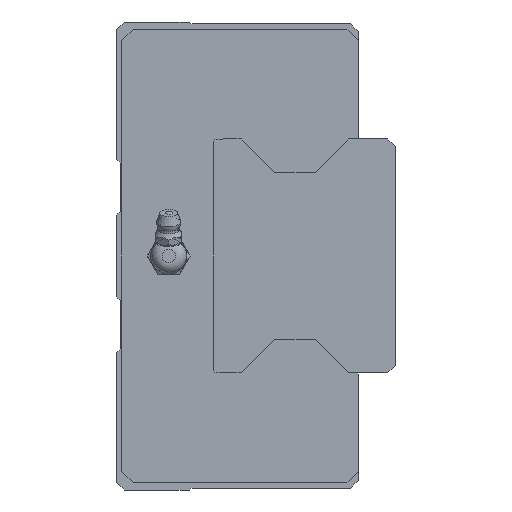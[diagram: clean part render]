
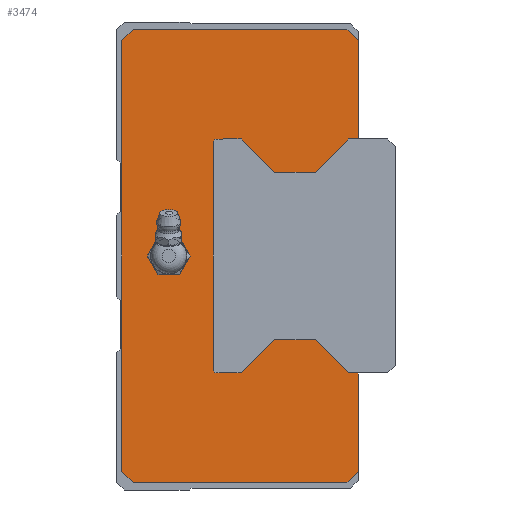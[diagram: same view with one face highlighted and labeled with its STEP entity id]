
A CAD part, left-side view. The second image highlights one B-rep face of the part: STEP entity #3474.
In plain terms, the highlighted planar face has unit normal (-1, 0, 0).
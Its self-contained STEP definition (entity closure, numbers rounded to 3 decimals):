
#238=CIRCLE('',#3808,4.864);
#239=CIRCLE('',#3809,1.);
#240=CIRCLE('',#3810,1.);
#686=ORIENTED_EDGE('',*,*,#1410,.T.);
#687=ORIENTED_EDGE('',*,*,#1411,.T.);
#688=ORIENTED_EDGE('',*,*,#1403,.F.);
#689=ORIENTED_EDGE('',*,*,#1331,.F.);
#690=ORIENTED_EDGE('',*,*,#1327,.F.);
#691=ORIENTED_EDGE('',*,*,#1319,.F.);
#692=ORIENTED_EDGE('',*,*,#1395,.F.);
#693=ORIENTED_EDGE('',*,*,#1304,.F.);
#694=ORIENTED_EDGE('',*,*,#1342,.F.);
#695=ORIENTED_EDGE('',*,*,#1339,.F.);
#696=ORIENTED_EDGE('',*,*,#1405,.F.);
#697=ORIENTED_EDGE('',*,*,#1412,.T.);
#698=ORIENTED_EDGE('',*,*,#1413,.T.);
#699=ORIENTED_EDGE('',*,*,#1414,.T.);
#700=ORIENTED_EDGE('',*,*,#1415,.T.);
#701=ORIENTED_EDGE('',*,*,#1416,.T.);
#702=ORIENTED_EDGE('',*,*,#1417,.T.);
#703=ORIENTED_EDGE('',*,*,#1418,.T.);
#704=ORIENTED_EDGE('',*,*,#1419,.T.);
#705=ORIENTED_EDGE('',*,*,#1420,.T.);
#706=ORIENTED_EDGE('',*,*,#1421,.T.);
#707=ORIENTED_EDGE('',*,*,#1422,.T.);
#708=ORIENTED_EDGE('',*,*,#1423,.T.);
#709=ORIENTED_EDGE('',*,*,#1424,.T.);
#710=ORIENTED_EDGE('',*,*,#1425,.T.);
#711=ORIENTED_EDGE('',*,*,#1426,.T.);
#712=ORIENTED_EDGE('',*,*,#1427,.T.);
#1304=EDGE_CURVE('',#1724,#1725,#2016,.T.);
#1319=EDGE_CURVE('',#1739,#1740,#2031,.T.);
#1327=EDGE_CURVE('',#1740,#1746,#2038,.T.);
#1331=EDGE_CURVE('',#1746,#1748,#2042,.T.);
#1339=EDGE_CURVE('',#1755,#1756,#2050,.T.);
#1342=EDGE_CURVE('',#1756,#1724,#2053,.T.);
#1395=EDGE_CURVE('',#1725,#1739,#2103,.T.);
#1403=EDGE_CURVE('',#1748,#1795,#2111,.T.);
#1405=EDGE_CURVE('',#1798,#1755,#2113,.T.);
#1410=EDGE_CURVE('',#1802,#1802,#238,.T.);
#1411=EDGE_CURVE('',#1803,#1795,#2118,.T.);
#1412=EDGE_CURVE('',#1798,#1804,#2119,.T.);
#1413=EDGE_CURVE('',#1804,#1805,#2120,.T.);
#1414=EDGE_CURVE('',#1805,#1806,#2121,.T.);
#1415=EDGE_CURVE('',#1806,#1807,#2122,.T.);
#1416=EDGE_CURVE('',#1807,#1808,#2123,.T.);
#1417=EDGE_CURVE('',#1808,#1809,#2124,.T.);
#1418=EDGE_CURVE('',#1809,#1810,#2125,.T.);
#1419=EDGE_CURVE('',#1810,#1811,#239,.T.);
#1420=EDGE_CURVE('',#1811,#1812,#2126,.T.);
#1421=EDGE_CURVE('',#1812,#1813,#240,.T.);
#1422=EDGE_CURVE('',#1813,#1814,#2127,.T.);
#1423=EDGE_CURVE('',#1814,#1815,#2128,.T.);
#1424=EDGE_CURVE('',#1815,#1816,#2129,.T.);
#1425=EDGE_CURVE('',#1816,#1817,#2130,.T.);
#1426=EDGE_CURVE('',#1817,#1818,#2131,.T.);
#1427=EDGE_CURVE('',#1818,#1803,#2132,.T.);
#1724=VERTEX_POINT('',#5298);
#1725=VERTEX_POINT('',#5300);
#1739=VERTEX_POINT('',#5329);
#1740=VERTEX_POINT('',#5331);
#1746=VERTEX_POINT('',#5347);
#1748=VERTEX_POINT('',#5354);
#1755=VERTEX_POINT('',#5369);
#1756=VERTEX_POINT('',#5371);
#1795=VERTEX_POINT('',#5484);
#1798=VERTEX_POINT('',#5494);
#1802=VERTEX_POINT('',#5505);
#1803=VERTEX_POINT('',#5507);
#1804=VERTEX_POINT('',#5509);
#1805=VERTEX_POINT('',#5511);
#1806=VERTEX_POINT('',#5513);
#1807=VERTEX_POINT('',#5515);
#1808=VERTEX_POINT('',#5517);
#1809=VERTEX_POINT('',#5519);
#1810=VERTEX_POINT('',#5521);
#1811=VERTEX_POINT('',#5523);
#1812=VERTEX_POINT('',#5525);
#1813=VERTEX_POINT('',#5527);
#1814=VERTEX_POINT('',#5529);
#1815=VERTEX_POINT('',#5531);
#1816=VERTEX_POINT('',#5533);
#1817=VERTEX_POINT('',#5535);
#1818=VERTEX_POINT('',#5537);
#2016=LINE('',#5299,#2296);
#2031=LINE('',#5330,#2311);
#2038=LINE('',#5346,#2318);
#2042=LINE('',#5353,#2322);
#2050=LINE('',#5370,#2330);
#2053=LINE('',#5375,#2333);
#2103=LINE('',#5477,#2383);
#2111=LINE('',#5491,#2391);
#2113=LINE('',#5496,#2393);
#2118=LINE('',#5506,#2398);
#2119=LINE('',#5508,#2399);
#2120=LINE('',#5510,#2400);
#2121=LINE('',#5512,#2401);
#2122=LINE('',#5514,#2402);
#2123=LINE('',#5516,#2403);
#2124=LINE('',#5518,#2404);
#2125=LINE('',#5520,#2405);
#2126=LINE('',#5524,#2406);
#2127=LINE('',#5528,#2407);
#2128=LINE('',#5530,#2408);
#2129=LINE('',#5532,#2409);
#2130=LINE('',#5534,#2410);
#2131=LINE('',#5536,#2411);
#2132=LINE('',#5538,#2412);
#2296=VECTOR('',#4344,1000.);
#2311=VECTOR('',#4361,1000.);
#2318=VECTOR('',#4374,1000.);
#2322=VECTOR('',#4380,1000.);
#2330=VECTOR('',#4390,1000.);
#2333=VECTOR('',#4395,1000.);
#2383=VECTOR('',#4475,1000.);
#2391=VECTOR('',#4487,1000.);
#2393=VECTOR('',#4491,1000.);
#2398=VECTOR('',#4500,1000.);
#2399=VECTOR('',#4501,1000.);
#2400=VECTOR('',#4502,1000.);
#2401=VECTOR('',#4503,1000.);
#2402=VECTOR('',#4504,1000.);
#2403=VECTOR('',#4505,1000.);
#2404=VECTOR('',#4506,1000.);
#2405=VECTOR('',#4507,1000.);
#2406=VECTOR('',#4510,1000.);
#2407=VECTOR('',#4513,1000.);
#2408=VECTOR('',#4514,1000.);
#2409=VECTOR('',#4515,1000.);
#2410=VECTOR('',#4516,1000.);
#2411=VECTOR('',#4517,1000.);
#2412=VECTOR('',#4518,1000.);
#2702=EDGE_LOOP('',(#686));
#2703=EDGE_LOOP('',(#687,#688,#689,#690,#691,#692,#693,#694,#695,#696,#697,
#698,#699,#700,#701,#702,#703,#704,#705,#706,#707,#708,#709,#710,#711,#712));
#3061=FACE_BOUND('',#2702,.T.);
#3062=FACE_BOUND('',#2703,.T.);
#3306=PLANE('',#3807);
#3474=ADVANCED_FACE('',(#3061,#3062),#3306,.F.);
#3807=AXIS2_PLACEMENT_3D('',#5503,#4496,#4497);
#3808=AXIS2_PLACEMENT_3D('',#5504,#4498,#4499);
#3809=AXIS2_PLACEMENT_3D('',#5522,#4508,#4509);
#3810=AXIS2_PLACEMENT_3D('',#5526,#4511,#4512);
#4344=DIRECTION('',(0.,0.707,0.707));
#4361=DIRECTION('',(0.,-0.707,0.707));
#4374=DIRECTION('',(0.,-1.,0.));
#4380=DIRECTION('',(0.,-0.707,-0.707));
#4390=DIRECTION('',(0.,0.707,-0.707));
#4395=DIRECTION('',(0.,1.,0.));
#4475=DIRECTION('',(0.,0.,1.));
#4487=DIRECTION('',(0.,0.,-1.));
#4491=DIRECTION('',(0.,0.,-1.));
#4496=DIRECTION('',(1.,0.,0.));
#4497=DIRECTION('',(0.,0.,-1.));
#4498=DIRECTION('',(1.,0.,0.));
#4499=DIRECTION('',(0.,0.,-1.));
#4500=DIRECTION('',(0.,-1.,0.));
#4501=DIRECTION('',(0.,1.,0.));
#4502=DIRECTION('',(0.,0.707,0.707));
#4503=DIRECTION('',(0.,1.,0.));
#4504=DIRECTION('',(0.,0.707,-0.707));
#4505=DIRECTION('',(0.,1.,0.));
#4506=DIRECTION('',(0.,0.707,0.707));
#4507=DIRECTION('',(0.,1.,0.));
#4508=DIRECTION('',(1.,0.,0.));
#4509=DIRECTION('',(0.,0.,-1.));
#4510=DIRECTION('',(0.,0.,1.));
#4511=DIRECTION('',(1.,0.,0.));
#4512=DIRECTION('',(0.,0.,-1.));
#4513=DIRECTION('',(0.,-1.,0.));
#4514=DIRECTION('',(0.,-0.707,0.707));
#4515=DIRECTION('',(0.,-1.,0.));
#4516=DIRECTION('',(0.,-0.707,-0.707));
#4517=DIRECTION('',(0.,-1.,0.));
#4518=DIRECTION('',(0.,-0.707,0.707));
#5298=CARTESIAN_POINT('',(-190.,60.6,-61.));
#5299=CARTESIAN_POINT('',(-190.,60.6,-61.));
#5300=CARTESIAN_POINT('',(-190.,63.6,-58.));
#5329=CARTESIAN_POINT('',(-190.,63.6,58.));
#5330=CARTESIAN_POINT('',(-190.,63.6,58.));
#5331=CARTESIAN_POINT('',(-190.,60.6,61.));
#5346=CARTESIAN_POINT('',(-190.,60.6,61.));
#5347=CARTESIAN_POINT('',(-190.,3.,61.));
#5353=CARTESIAN_POINT('',(-190.,3.,61.));
#5354=CARTESIAN_POINT('',(-190.,0.,58.));
#5369=CARTESIAN_POINT('',(-190.,0.,-58.));
#5370=CARTESIAN_POINT('',(-190.,0.,-58.));
#5371=CARTESIAN_POINT('',(-190.,3.,-61.));
#5375=CARTESIAN_POINT('',(-190.,3.,-61.));
#5477=CARTESIAN_POINT('',(-190.,63.6,-58.));
#5484=CARTESIAN_POINT('',(-190.,0.,31.5));
#5491=CARTESIAN_POINT('',(-190.,0.,58.));
#5494=CARTESIAN_POINT('',(-190.,0.,-31.5));
#5496=CARTESIAN_POINT('',(-190.,0.,58.));
#5503=CARTESIAN_POINT('',(-190.,0.,0.));
#5504=CARTESIAN_POINT('',(-190.,51.,0.));
#5505=CARTESIAN_POINT('',(-190.,51.,-4.864));
#5506=CARTESIAN_POINT('',(-190.,2.5,31.5));
#5507=CARTESIAN_POINT('',(-190.,2.5,31.5));
#5508=CARTESIAN_POINT('',(-190.,-8.,-31.5));
#5509=CARTESIAN_POINT('',(-190.,2.5,-31.5));
#5510=CARTESIAN_POINT('',(-190.,2.5,-31.5));
#5511=CARTESIAN_POINT('',(-190.,11.5,-22.5));
#5512=CARTESIAN_POINT('',(-190.,11.5,-22.5));
#5513=CARTESIAN_POINT('',(-190.,22.5,-22.5));
#5514=CARTESIAN_POINT('',(-190.,22.5,-22.5));
#5515=CARTESIAN_POINT('',(-190.,31.5,-31.5));
#5516=CARTESIAN_POINT('',(-190.,31.5,-31.5));
#5517=CARTESIAN_POINT('',(-190.,36.26,-31.5));
#5518=CARTESIAN_POINT('',(-190.,36.26,-31.5));
#5519=CARTESIAN_POINT('',(-190.,36.51,-31.25));
#5520=CARTESIAN_POINT('',(-190.,36.51,-31.25));
#5521=CARTESIAN_POINT('',(-190.,37.339,-31.25));
#5522=CARTESIAN_POINT('',(-190.,38.,-30.5));
#5523=CARTESIAN_POINT('',(-190.,39.,-30.5));
#5524=CARTESIAN_POINT('',(-190.,39.,-30.5));
#5525=CARTESIAN_POINT('',(-190.,39.,30.5));
#5526=CARTESIAN_POINT('',(-190.,38.,30.5));
#5527=CARTESIAN_POINT('',(-190.,37.339,31.25));
#5528=CARTESIAN_POINT('',(-190.,37.339,31.25));
#5529=CARTESIAN_POINT('',(-190.,36.51,31.25));
#5530=CARTESIAN_POINT('',(-190.,36.51,31.25));
#5531=CARTESIAN_POINT('',(-190.,36.26,31.5));
#5532=CARTESIAN_POINT('',(-190.,36.26,31.5));
#5533=CARTESIAN_POINT('',(-190.,31.5,31.5));
#5534=CARTESIAN_POINT('',(-190.,31.5,31.5));
#5535=CARTESIAN_POINT('',(-190.,22.5,22.5));
#5536=CARTESIAN_POINT('',(-190.,22.5,22.5));
#5537=CARTESIAN_POINT('',(-190.,11.5,22.5));
#5538=CARTESIAN_POINT('',(-190.,11.5,22.5));
